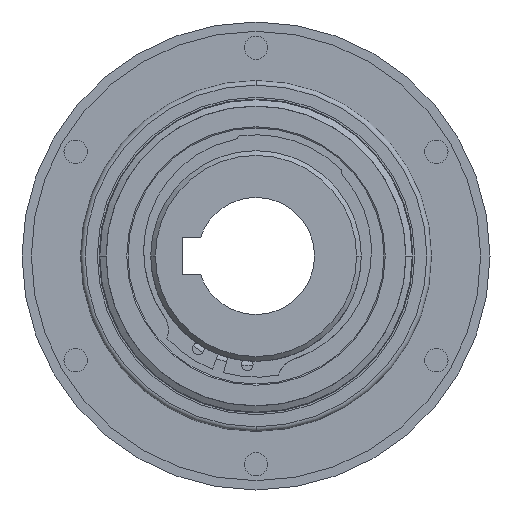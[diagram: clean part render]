
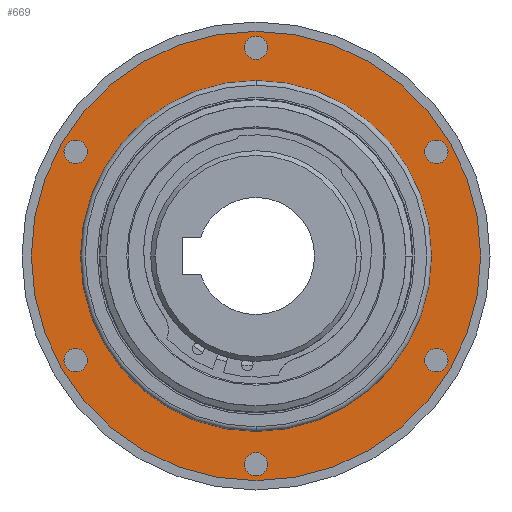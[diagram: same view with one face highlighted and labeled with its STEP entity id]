
A CAD part, left-side view. The second image highlights one B-rep face of the part: STEP entity #669.
In plain terms, the highlighted planar face has unit normal (-1, 0, 0).
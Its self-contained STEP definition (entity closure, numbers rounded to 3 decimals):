
#669=ADVANCED_FACE('',(#1444,#1445,#1446,#1447,#1448,#1449,#1450,#1451),#1452,.T.);
#1444=FACE_OUTER_BOUND('',#2333,.T.);
#1445=FACE_BOUND('',#2334,.T.);
#1446=FACE_BOUND('',#2335,.T.);
#1447=FACE_BOUND('',#2336,.T.);
#1448=FACE_BOUND('',#2337,.T.);
#1449=FACE_BOUND('',#2338,.T.);
#1450=FACE_BOUND('',#2339,.T.);
#1451=FACE_BOUND('',#2340,.T.);
#1452=PLANE('',#2341);
#2333=EDGE_LOOP('',(#4307,#4308));
#2334=EDGE_LOOP('',(#4309,#4310));
#2335=EDGE_LOOP('',(#4311,#4312,#4313));
#2336=EDGE_LOOP('',(#4314,#4315,#4316));
#2337=EDGE_LOOP('',(#4317,#4318,#4319));
#2338=EDGE_LOOP('',(#4320,#4321));
#2339=EDGE_LOOP('',(#4322,#4323));
#2340=EDGE_LOOP('',(#4324,#4325,#4326));
#2341=AXIS2_PLACEMENT_3D('',#4327,#4328,#4329);
#4307=ORIENTED_EDGE('',*,*,#5939,.T.);
#4308=ORIENTED_EDGE('',*,*,#5521,.T.);
#4309=ORIENTED_EDGE('',*,*,#5943,.T.);
#4310=ORIENTED_EDGE('',*,*,#5511,.T.);
#4311=ORIENTED_EDGE('',*,*,#5341,.T.);
#4312=ORIENTED_EDGE('',*,*,#5945,.T.);
#4313=ORIENTED_EDGE('',*,*,#5342,.T.);
#4314=ORIENTED_EDGE('',*,*,#5335,.T.);
#4315=ORIENTED_EDGE('',*,*,#5946,.T.);
#4316=ORIENTED_EDGE('',*,*,#5336,.T.);
#4317=ORIENTED_EDGE('',*,*,#5329,.T.);
#4318=ORIENTED_EDGE('',*,*,#5947,.T.);
#4319=ORIENTED_EDGE('',*,*,#5330,.T.);
#4320=ORIENTED_EDGE('',*,*,#5948,.T.);
#4321=ORIENTED_EDGE('',*,*,#5324,.T.);
#4322=ORIENTED_EDGE('',*,*,#5949,.T.);
#4323=ORIENTED_EDGE('',*,*,#5319,.T.);
#4324=ORIENTED_EDGE('',*,*,#5950,.T.);
#4325=ORIENTED_EDGE('',*,*,#5447,.T.);
#4326=ORIENTED_EDGE('',*,*,#5951,.T.);
#4327=CARTESIAN_POINT('',(-45.0,-48.576,-48.576));
#4328=DIRECTION('',(-1.0,0.0,0.0));
#4329=DIRECTION('',(0.0,0.0,1.0));
#5319=EDGE_CURVE('',#6407,#6404,#6408,.T.);
#5324=EDGE_CURVE('',#6416,#6413,#6417,.T.);
#5329=EDGE_CURVE('',#6425,#6422,#6426,.T.);
#5330=EDGE_CURVE('',#6427,#6425,#6428,.T.);
#5335=EDGE_CURVE('',#6436,#6433,#6437,.T.);
#5336=EDGE_CURVE('',#6438,#6436,#6439,.T.);
#5341=EDGE_CURVE('',#6447,#6444,#6448,.T.);
#5342=EDGE_CURVE('',#6449,#6447,#6450,.T.);
#5447=EDGE_CURVE('',#6629,#6635,#6637,.F.);
#5511=EDGE_CURVE('',#6736,#6733,#6737,.T.);
#5521=EDGE_CURVE('',#6754,#6751,#6755,.T.);
#5939=EDGE_CURVE('',#6751,#6754,#7350,.T.);
#5943=EDGE_CURVE('',#6733,#6736,#7354,.T.);
#5945=EDGE_CURVE('',#6444,#6449,#7356,.T.);
#5946=EDGE_CURVE('',#6433,#6438,#7357,.T.);
#5947=EDGE_CURVE('',#6422,#6427,#7358,.T.);
#5948=EDGE_CURVE('',#6413,#6416,#7359,.T.);
#5949=EDGE_CURVE('',#6404,#6407,#7360,.T.);
#5950=EDGE_CURVE('',#7361,#6629,#7362,.F.);
#5951=EDGE_CURVE('',#6635,#7361,#7363,.F.);
#6404=VERTEX_POINT('',#8027);
#6407=VERTEX_POINT('',#8031);
#6408=CIRCLE('',#8032,2.501);
#6413=VERTEX_POINT('',#8038);
#6416=VERTEX_POINT('',#8042);
#6417=CIRCLE('',#8043,2.501);
#6422=VERTEX_POINT('',#8049);
#6425=VERTEX_POINT('',#8053);
#6426=CIRCLE('',#8054,2.501);
#6427=VERTEX_POINT('',#8055);
#6428=CIRCLE('',#8056,2.501);
#6433=VERTEX_POINT('',#8062);
#6436=VERTEX_POINT('',#8066);
#6437=CIRCLE('',#8067,2.501);
#6438=VERTEX_POINT('',#8068);
#6439=CIRCLE('',#8069,2.501);
#6444=VERTEX_POINT('',#8075);
#6447=VERTEX_POINT('',#8079);
#6448=CIRCLE('',#8080,2.501);
#6449=VERTEX_POINT('',#8081);
#6450=CIRCLE('',#8082,2.501);
#6629=VERTEX_POINT('',#8286);
#6635=VERTEX_POINT('',#8293);
#6637=CIRCLE('',#8296,37.5);
#6733=VERTEX_POINT('',#8408);
#6736=VERTEX_POINT('',#8412);
#6737=CIRCLE('',#8413,2.501);
#6751=VERTEX_POINT('',#8430);
#6754=VERTEX_POINT('',#8434);
#6755=CIRCLE('',#8435,48.0);
#7350=CIRCLE('',#9599,48.0);
#7354=CIRCLE('',#9603,2.501);
#7356=CIRCLE('',#9605,2.501);
#7357=CIRCLE('',#9606,2.501);
#7358=CIRCLE('',#9607,2.501);
#7359=CIRCLE('',#9608,2.501);
#7360=CIRCLE('',#9609,2.501);
#7361=VERTEX_POINT('',#9610);
#7362=CIRCLE('',#9611,37.5);
#7363=CIRCLE('',#9612,37.5);
#8027=CARTESIAN_POINT('',(-45.0,-38.538,-24.751));
#8031=CARTESIAN_POINT('',(-45.0,-38.538,-19.75));
#8032=AXIS2_PLACEMENT_3D('',#10207,#10208,#10209);
#8038=CARTESIAN_POINT('',(-45.0,-38.538,19.75));
#8042=CARTESIAN_POINT('',(-45.0,-38.538,24.751));
#8043=AXIS2_PLACEMENT_3D('',#10215,#10216,#10217);
#8049=CARTESIAN_POINT('',(-45.0,2.501,44.5));
#8053=CARTESIAN_POINT('',(-45.0,0.,42.));
#8054=AXIS2_PLACEMENT_3D('',#10223,#10224,#10225);
#8055=CARTESIAN_POINT('',(-45.0,-2.501,44.5));
#8056=AXIS2_PLACEMENT_3D('',#10226,#10227,#10228);
#8062=CARTESIAN_POINT('',(-45.0,38.538,19.75));
#8066=CARTESIAN_POINT('',(-45.0,36.373,21.));
#8067=AXIS2_PLACEMENT_3D('',#10234,#10235,#10236);
#8068=CARTESIAN_POINT('',(-45.0,38.538,24.751));
#8069=AXIS2_PLACEMENT_3D('',#10237,#10238,#10239);
#8075=CARTESIAN_POINT('',(-45.0,38.538,-24.751));
#8079=CARTESIAN_POINT('',(-45.0,36.373,-21.));
#8080=AXIS2_PLACEMENT_3D('',#10245,#10246,#10247);
#8081=CARTESIAN_POINT('',(-45.0,38.538,-19.75));
#8082=AXIS2_PLACEMENT_3D('',#10248,#10249,#10250);
#8286=CARTESIAN_POINT('',(-45.0,-37.5,0.));
#8293=CARTESIAN_POINT('',(-45.0,37.5,0.));
#8296=AXIS2_PLACEMENT_3D('',#10461,#10462,#10463);
#8408=CARTESIAN_POINT('',(-45.0,2.5,-44.5));
#8412=CARTESIAN_POINT('',(-45.0,-2.501,-44.5));
#8413=AXIS2_PLACEMENT_3D('',#10577,#10578,#10579);
#8430=CARTESIAN_POINT('',(-45.0,-48.0,0.));
#8434=CARTESIAN_POINT('',(-45.0,48.0,0.));
#8435=AXIS2_PLACEMENT_3D('',#10593,#10594,#10595);
#9599=AXIS2_PLACEMENT_3D('',#11158,#11159,#11160);
#9603=AXIS2_PLACEMENT_3D('',#11164,#11165,#11166);
#9605=AXIS2_PLACEMENT_3D('',#11167,#11168,#11169);
#9606=AXIS2_PLACEMENT_3D('',#11170,#11171,#11172);
#9607=AXIS2_PLACEMENT_3D('',#11173,#11174,#11175);
#9608=AXIS2_PLACEMENT_3D('',#11176,#11177,#11178);
#9609=AXIS2_PLACEMENT_3D('',#11179,#11180,#11181);
#9610=CARTESIAN_POINT('',(-45.0,0.,37.5));
#9611=AXIS2_PLACEMENT_3D('',#11182,#11183,#11184);
#9612=AXIS2_PLACEMENT_3D('',#11185,#11186,#11187);
#10207=CARTESIAN_POINT('',(-45.0,-38.538,-22.25));
#10208=DIRECTION('',(1.0,0.0,0.0));
#10209=DIRECTION('',(0.0,0.0,-1.0));
#10215=CARTESIAN_POINT('',(-45.0,-38.538,22.25));
#10216=DIRECTION('',(1.0,0.0,0.0));
#10217=DIRECTION('',(0.0,0.0,-1.0));
#10223=CARTESIAN_POINT('',(-45.0,0.,44.5));
#10224=DIRECTION('',(1.0,0.0,0.0));
#10225=DIRECTION('',(0.0,1.0,0.0));
#10226=CARTESIAN_POINT('',(-45.0,0.,44.5));
#10227=DIRECTION('',(1.0,0.0,0.0));
#10228=DIRECTION('',(0.0,1.0,0.0));
#10234=CARTESIAN_POINT('',(-45.0,38.538,22.25));
#10235=DIRECTION('',(1.0,0.0,0.0));
#10236=DIRECTION('',(0.0,0.0,-1.0));
#10237=CARTESIAN_POINT('',(-45.0,38.538,22.25));
#10238=DIRECTION('',(1.0,0.0,0.0));
#10239=DIRECTION('',(0.0,0.0,-1.0));
#10245=CARTESIAN_POINT('',(-45.0,38.538,-22.25));
#10246=DIRECTION('',(1.0,0.0,0.0));
#10247=DIRECTION('',(0.0,0.0,-1.0));
#10248=CARTESIAN_POINT('',(-45.0,38.538,-22.25));
#10249=DIRECTION('',(1.0,0.0,0.0));
#10250=DIRECTION('',(0.0,0.0,-1.0));
#10461=CARTESIAN_POINT('',(-45.0,0.,0.));
#10462=DIRECTION('',(-1.0,0.0,0.0));
#10463=DIRECTION('',(0.0,0.0,1.0));
#10577=CARTESIAN_POINT('',(-45.0,0.,-44.5));
#10578=DIRECTION('',(1.0,0.0,0.0));
#10579=DIRECTION('',(0.0,1.0,0.0));
#10593=CARTESIAN_POINT('',(-45.0,0.,0.));
#10594=DIRECTION('',(-1.0,0.0,0.0));
#10595=DIRECTION('',(0.0,-1.0,0.0));
#11158=CARTESIAN_POINT('',(-45.0,0.,0.));
#11159=DIRECTION('',(-1.0,0.0,0.0));
#11160=DIRECTION('',(0.0,-1.0,0.0));
#11164=CARTESIAN_POINT('',(-45.0,0.,-44.5));
#11165=DIRECTION('',(1.0,0.0,0.0));
#11166=DIRECTION('',(0.0,1.0,0.0));
#11167=CARTESIAN_POINT('',(-45.0,38.538,-22.25));
#11168=DIRECTION('',(1.0,0.0,0.0));
#11169=DIRECTION('',(0.0,0.0,-1.0));
#11170=CARTESIAN_POINT('',(-45.0,38.538,22.25));
#11171=DIRECTION('',(1.0,0.0,0.0));
#11172=DIRECTION('',(0.0,0.0,-1.0));
#11173=CARTESIAN_POINT('',(-45.0,0.,44.5));
#11174=DIRECTION('',(1.0,0.0,0.0));
#11175=DIRECTION('',(0.0,1.0,0.0));
#11176=CARTESIAN_POINT('',(-45.0,-38.538,22.25));
#11177=DIRECTION('',(1.0,0.0,0.0));
#11178=DIRECTION('',(0.0,0.0,-1.0));
#11179=CARTESIAN_POINT('',(-45.0,-38.538,-22.25));
#11180=DIRECTION('',(1.0,0.0,0.0));
#11181=DIRECTION('',(0.0,0.0,-1.0));
#11182=CARTESIAN_POINT('',(-45.0,0.,0.));
#11183=DIRECTION('',(-1.0,0.0,0.0));
#11184=DIRECTION('',(0.0,0.0,1.0));
#11185=CARTESIAN_POINT('',(-45.0,0.,0.));
#11186=DIRECTION('',(-1.0,0.0,0.0));
#11187=DIRECTION('',(0.0,0.0,1.0));
